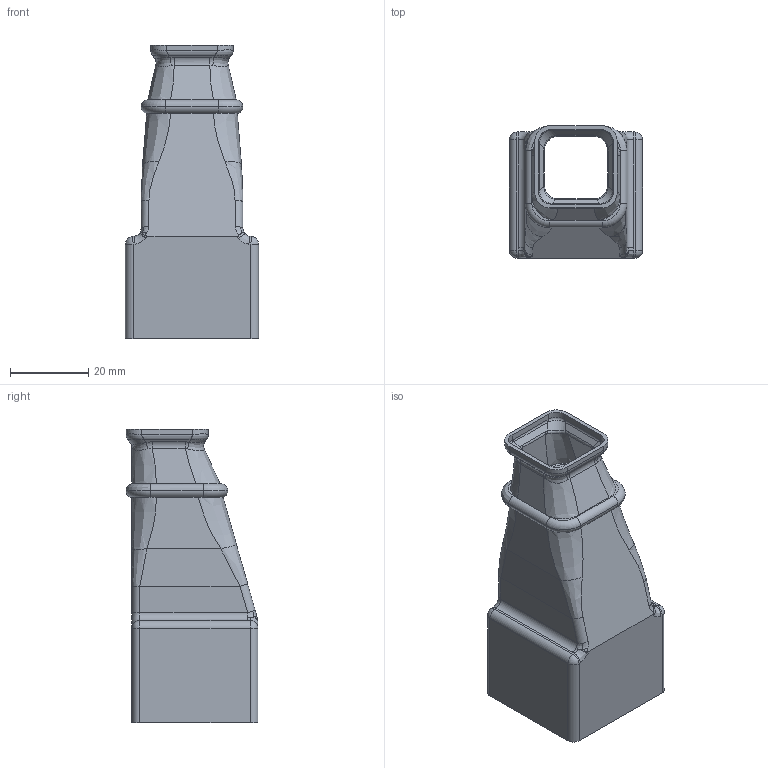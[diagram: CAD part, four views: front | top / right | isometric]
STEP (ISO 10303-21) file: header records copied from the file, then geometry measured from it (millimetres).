
FILE_DESCRIPTION(('Creo Elements/Direct Modeling STEP Export'),'2;1');
FILE_NAME('QTM-633C.stp','2014-02-25T13:09:07',(''),(''),'Creo Elements/Direct Modeling STEP processor for AP214 (Solid Model)','Creo Elements/Direct Modeling 18.1B 29-Sep-2012 (C) Parametric Technology GmbH','');
FILE_SCHEMA(('AUTOMOTIVE_DESIGN { 1 0 10303 214 1 1 1 1 }'));
Length unit declared in the file: millimetre
Products named in the file (1): QTM-633C
Bounding box: 34 x 33.7 x 75 mm (x, y, z)
Volume: 8035.9 mm3; surface area: 16251.6 mm2
Topology: 1 solids, 1 shells, 253 faces, 621 edges, 364 vertices
Faces by surface type: bspline 83, cylinder 82, plane 61, torus 19, sphere 8
Entity records: 19087 total; most frequent: CARTESIAN_POINT 14125, ORIENTED_EDGE 1226, DIRECTION 746, EDGE_CURVE 613, VERTEX_POINT 364, AXIS2_PLACEMENT_3D 277, EDGE_LOOP 257, FACE_OUTER_BOUND 253
